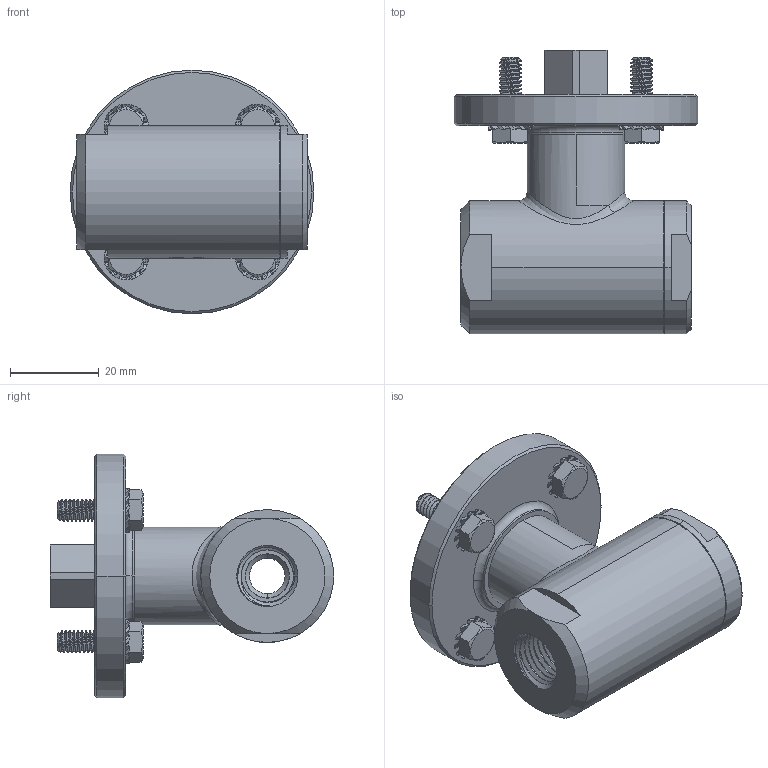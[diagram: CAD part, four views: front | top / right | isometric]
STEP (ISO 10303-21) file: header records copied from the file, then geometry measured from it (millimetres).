
FILE_DESCRIPTION((''),'2;1');
FILE_NAME('1030046041F','2023-09-19T15:37:07',('alfio.taboni'),('CDM Tecnoconsulting'),'CREO PARAMETRIC BY PTC INC, 2020053','CREO PARAMETRIC BY PTC INC, 2020053','');
FILE_SCHEMA(('CONFIG_CONTROL_DESIGN','SHAPE_APPEARANCE_LAYERS_GROUPS'));
Products named in the file (1): 1030046041F
Bounding box: 55 x 64 x 55 mm (x, y, z)
Volume: 51533.5 mm3; surface area: 24711.3 mm2
Topology: 1 solids, 1 shells, 1151 faces, 3209 edges, 2086 vertices
Faces by surface type: plane 420, cylinder 356, cone 145, bspline 106, torus 64, extrusion 56, sphere 4
Entity records: 90153 total; most frequent: CARTESIAN_POINT 53068, ORIENTED_EDGE 6402, DIRECTION 4719, PRESENTATION_STYLE_ASSIGNMENT 3202, STYLED_ITEM 3202, CURVE_STYLE 3201, EDGE_CURVE 3201, VERTEX_POINT 2086
